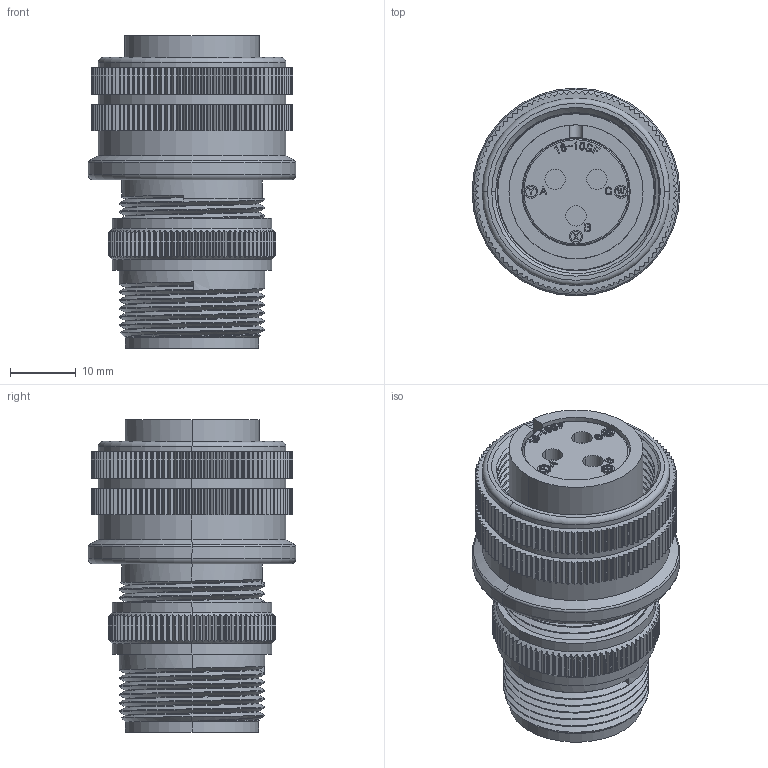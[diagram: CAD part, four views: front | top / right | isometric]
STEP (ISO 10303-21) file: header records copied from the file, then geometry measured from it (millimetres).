
FILE_DESCRIPTION (( 'STEP AP203' ), '1' );
FILE_NAME ('DMS3106A16-10S.STEP', '2017-02-16T02:51:28', ( '' ), ( '' ), 'SwSTEP 2.0', 'SolidWorks 2015', '' );
FILE_SCHEMA (( 'CONFIG_CONTROL_DESIGN' ));
Length unit declared in the file: millimetre
Products named in the file (1): DMS3106A16-10S
Bounding box: 31.7 x 31.7 x 47.64 mm (x, y, z)
Volume: 17312.1 mm3; surface area: 16079.7 mm2
Topology: 1 solids, 1 shells, 2189 faces, 6367 edges, 4229 vertices
Faces by surface type: cylinder 1081, plane 858, bspline 226, cone 16, torus 8
Entity records: 86750 total; most frequent: CARTESIAN_POINT 30236, ORIENTED_EDGE 12734, DIRECTION 10913, EDGE_CURVE 6367, VERTEX_POINT 4229, AXIS2_PLACEMENT_3D 3803, VECTOR 3307, LINE 3307
